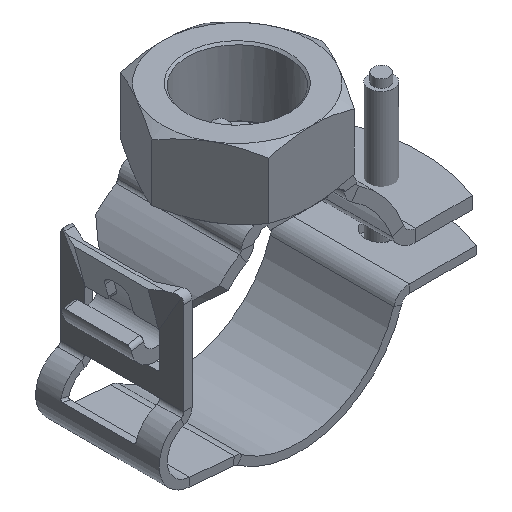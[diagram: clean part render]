
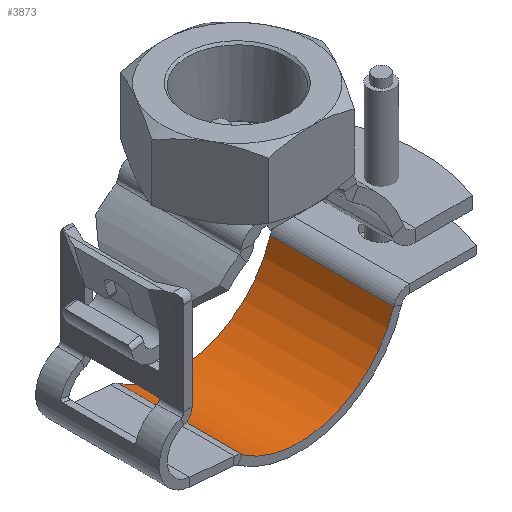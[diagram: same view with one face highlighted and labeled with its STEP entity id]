
A CAD part, isometric view. The second image highlights one B-rep face of the part: STEP entity #3873.
In plain terms, the highlighted cylindrical face has radius 24 mm (diameter 48 mm), a partial arc.
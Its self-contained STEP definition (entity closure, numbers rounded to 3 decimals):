
#167=CIRCLE('',#4159,24.);
#168=CIRCLE('',#4160,24.);
#293=CYLINDRICAL_SURFACE('',#4158,24.);
#398=FACE_OUTER_BOUND('',#619,.T.);
#619=EDGE_LOOP('',(#2567,#2568,#2569,#2570));
#895=LINE('',#6169,#1215);
#899=LINE('',#6183,#1219);
#1215=VECTOR('',#4698,1.);
#1219=VECTOR('',#4714,1.);
#1539=VERTEX_POINT('',#6167);
#1540=VERTEX_POINT('',#6168);
#1543=VERTEX_POINT('',#6179);
#1544=VERTEX_POINT('',#6181);
#1926=EDGE_CURVE('',#1539,#1540,#895,.F.);
#1932=EDGE_CURVE('',#1540,#1543,#167,.T.);
#1933=EDGE_CURVE('',#1539,#1544,#168,.T.);
#1934=EDGE_CURVE('',#1544,#1543,#899,.F.);
#2567=ORIENTED_EDGE('',*,*,#1932,.F.);
#2568=ORIENTED_EDGE('',*,*,#1926,.F.);
#2569=ORIENTED_EDGE('',*,*,#1933,.T.);
#2570=ORIENTED_EDGE('',*,*,#1934,.T.);
#3873=ADVANCED_FACE('',(#398),#293,.F.);
#4158=AXIS2_PLACEMENT_3D('',#6178,#4708,#4709);
#4159=AXIS2_PLACEMENT_3D('',#6180,#4710,#4711);
#4160=AXIS2_PLACEMENT_3D('',#6182,#4712,#4713);
#4698=DIRECTION('',(0.,-1.,0.));
#4708=DIRECTION('center_axis',(0.,-1.,0.));
#4709=DIRECTION('ref_axis',(0.328,0.,-0.945));
#4710=DIRECTION('center_axis',(0.,-1.,0.));
#4711=DIRECTION('ref_axis',(-1.,0.,0.));
#4712=DIRECTION('center_axis',(0.,-1.,0.));
#4713=DIRECTION('ref_axis',(-1.,0.,0.));
#4714=DIRECTION('',(0.,-1.,0.));
#6167=CARTESIAN_POINT('',(-13.806,-15.,-19.632));
#6168=CARTESIAN_POINT('',(-13.806,15.,-19.632));
#6169=CARTESIAN_POINT('',(-13.806,0.,-19.632));
#6178=CARTESIAN_POINT('Origin',(0.,-0.511,0.));
#6179=CARTESIAN_POINT('',(23.,15.,-6.857));
#6180=CARTESIAN_POINT('Origin',(0.,15.,0.));
#6181=CARTESIAN_POINT('',(23.,-15.,-6.857));
#6182=CARTESIAN_POINT('Origin',(0.,-15.,
0.));
#6183=CARTESIAN_POINT('',(23.,0.,-6.857));
